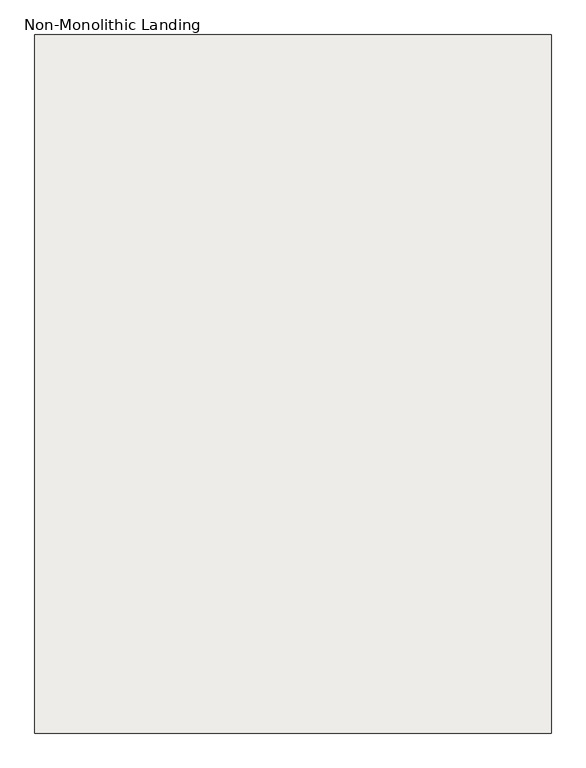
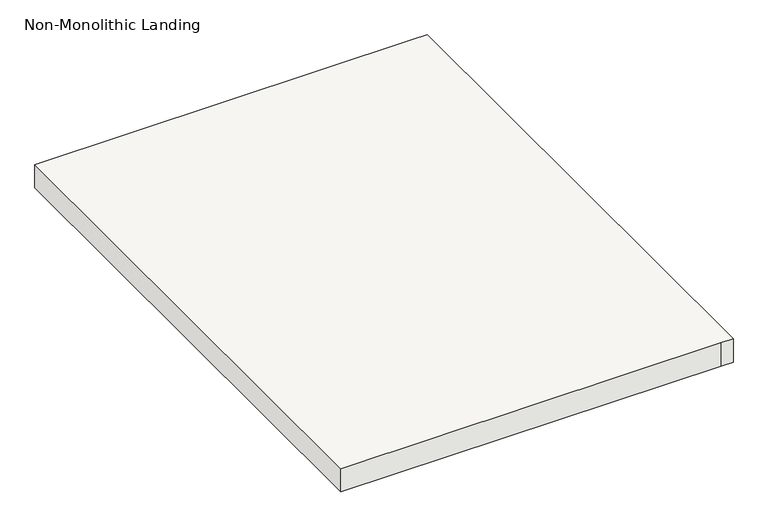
"""IFC4 building model written with IfcOpenShell, lengths in millimetres: slab geometry, Non-Monolithic Landing."""

from ifc_helpers import new_model, si_unit, frame, origin, place, context, project, spatial, polyline, outline, extrude, source, transform, mapped, element, save


def non_monolithic_landing_4f14bc7e(model_context):
    return source(origin(), model_context, "Body", "SweptSolid", [
        extrude(outline(polyline([(-15652.4813244, 9475.3913722), (-14865.0813244, 9475.3913722), (-14839.6813244, 9475.3913722), (-14839.6813244, 8376.9937722), (-14865.0813244, 8376.9937722), (-15652.4813244, 8376.9937722), (-15652.4813244, 9475.3913722)])), frame((0.0, 0.0, 1690.9142857), z_axis=(0.0, 0.0, 1.0), x_axis=(1.0, 0.0, 0.0)), (0.0, 0.0, 1.0), 50.8),
    ])


if __name__ == "__main__":
    model = new_model("IFC4")
    model_context = context("Model", 3, world=origin())
    ifc_project = project(units=[si_unit("LENGTHUNIT", "METRE", prefix="MILLI")], contexts=[model_context])
    site = spatial("IfcSite", under=ifc_project)
    building = spatial("IfcBuilding", under=site)
    placement = place(None, origin())
    non_monolithic_landing_shape = non_monolithic_landing_4f14bc7e(model_context)
    element("IfcSlab", 1, ObjectType="Non-Monolithic Landing", at=placement, inside=building, context=model_context, shape_type="MappedRepresentation", body=[
        mapped(non_monolithic_landing_shape, transform((0.0, 0.0, 0.0), x_axis=(1.0, 0.0, 0.0), y_axis=(0.0, 1.0, 0.0), z_axis=(0.0, 0.0, 1.0))),
    ])
    save(model, "model.ifc")
